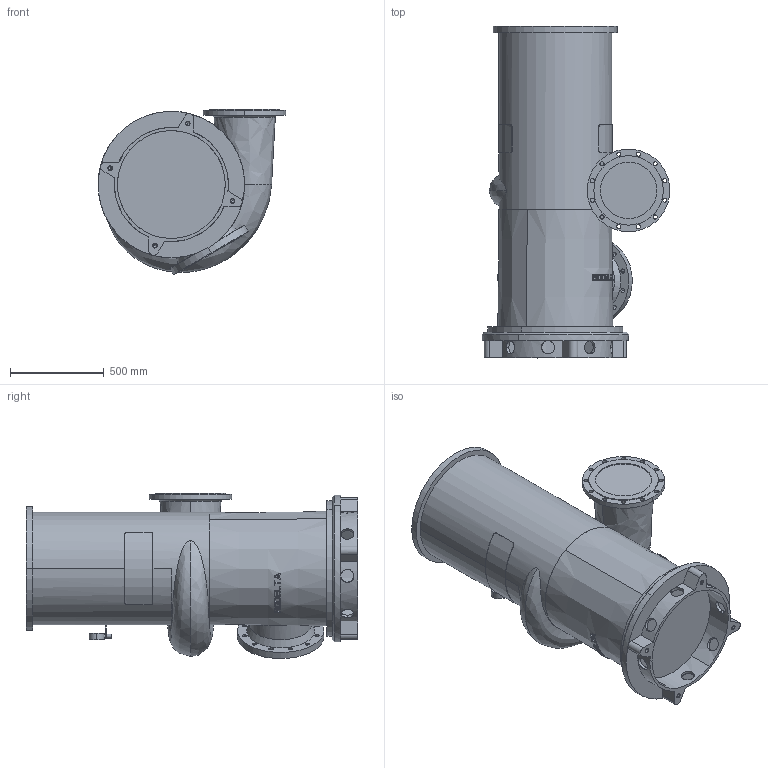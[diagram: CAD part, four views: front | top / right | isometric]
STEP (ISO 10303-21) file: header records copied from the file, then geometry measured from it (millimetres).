
FILE_DESCRIPTION((''),'2;1');
FILE_NAME('12-520_ASM','2024-08-06T',('Lyritlocal'),(''),'PRO/ENGINEER BY PARAMETRIC TECHNOLOGY CORPORATION, 2016360','PRO/ENGINEER BY PARAMETRIC TECHNOLOGY CORPORATION, 2016360','');
FILE_SCHEMA(('CONFIG_CONTROL_DESIGN'));
Length unit declared in the file: millimetre
Products named in the file (3): 12-520; 12-520_VOET; 12-520_ASM
Assembly tree (2 placements, depth 2):
  12-520_ASM
    12-520
    12-520_VOET
Bounding box: 1000 x 1766.5 x 879.6 mm (x, y, z)
Volume: 566586530 mm3; surface area: 6652634.1 mm2
Topology: 2 solids, 6 shells, 503 faces, 1366 edges, 900 vertices
Faces by surface type: plane 323, cylinder 138, cone 36, bspline 6
Entity records: 17785 total; most frequent: CARTESIAN_POINT 5428, ORIENTED_EDGE 2700, DIRECTION 2313, EDGE_CURVE 1358, VERTEX_POINT 900, AXIS2_PLACEMENT_3D 896, EDGE_LOOP 608, VECTOR 521
